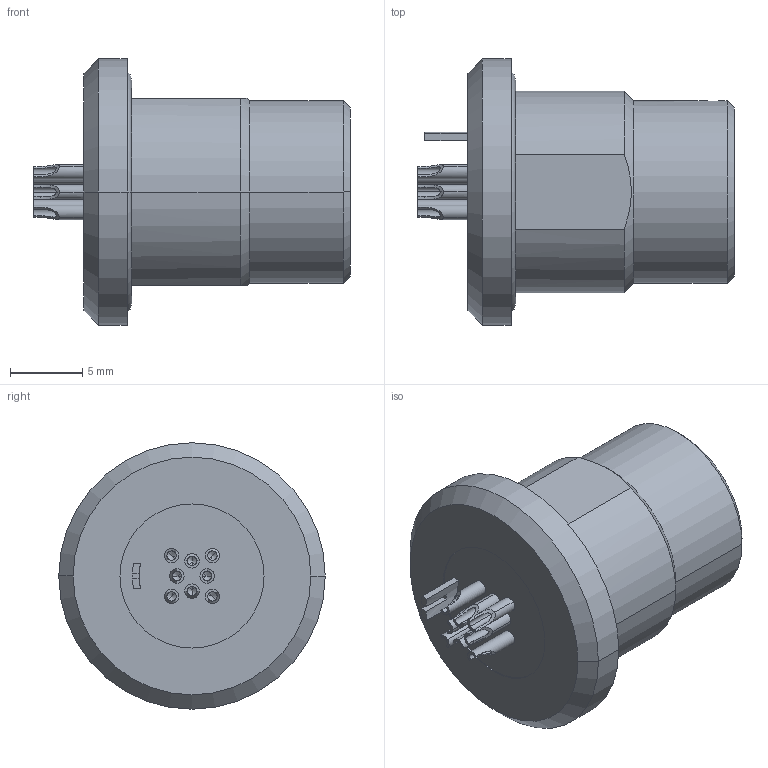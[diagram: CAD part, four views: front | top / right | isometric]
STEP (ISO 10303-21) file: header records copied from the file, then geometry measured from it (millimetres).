
FILE_DESCRIPTION((''),'2;1');
FILE_NAME('GK1YAR-PD8WCD0-000L_WITHOUT_HEX','2020-10-22T09:30:47',('EUnterhaslberger'),(''),'CREO PARAMETRIC BY PTC INC, 2018300','CREO PARAMETRIC BY PTC INC, 2018300','');
FILE_SCHEMA(('AP242_MANAGED_MODEL_BASED_3D_ENGINEERING_MIM_LF { 1 0 10303 442 1 1 4 }'));
Length unit declared in the file: millimetre
Products named in the file (1): GK1YAR-PD8WCD0-000L_WITHOUT_HEX
Bounding box: 22 x 18.5 x 18.5 mm (x, y, z)
Volume: 2390 mm3; surface area: 2474.6 mm2
Topology: 2 solids, 2 shells, 227 faces, 604 edges, 389 vertices
Faces by surface type: cylinder 81, plane 75, cone 47, torus 24
Entity records: 9037 total; most frequent: CARTESIAN_POINT 1866, DIRECTION 1225, ORIENTED_EDGE 1176, EDGE_CURVE 588, AXIS2_PLACEMENT_3D 480, VERTEX_POINT 389, VECTOR 265, LINE 265
